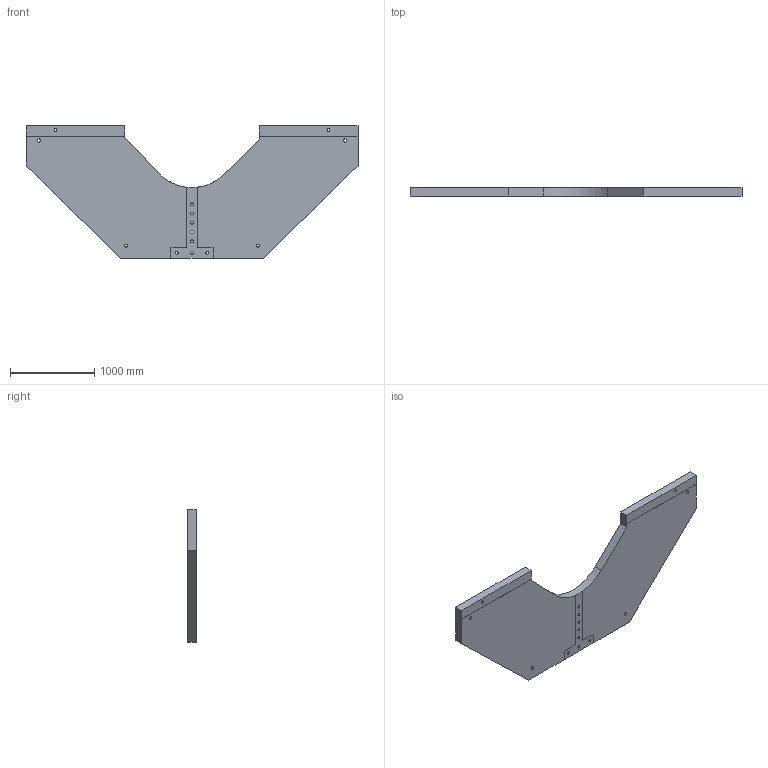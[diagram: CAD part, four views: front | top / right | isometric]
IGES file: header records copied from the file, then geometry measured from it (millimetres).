
Start section:  PTC IGES file: upper_horizontal_gusset.igs
Global section: file name: upper_horizontal_gusset.igs; native system: Pro/ENGINEER by Parametric Technology Corporation; preprocessor: 1999260; author: oshatz; organization: Unknown; date: 000922.101555; units: millimetre
Bounding box: 3936 x 101.6 x 1571 mm (x, y, z)
Surface area: 9513938 mm2 (no closed solid volume)
Topology: 0 solids, 0 shells, 120 faces, 576 edges, 576 vertices
Faces by surface type: revolution 73, bspline 47
